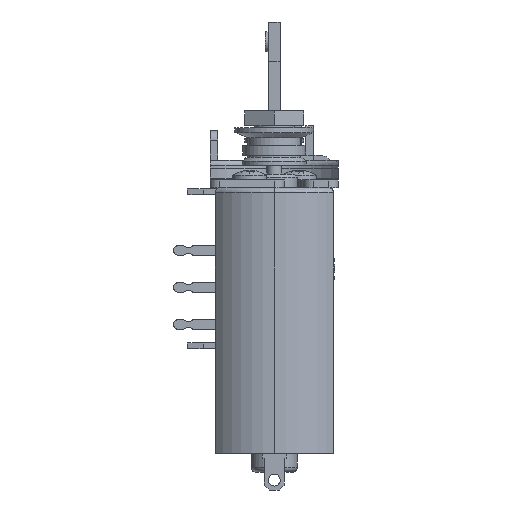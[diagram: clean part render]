
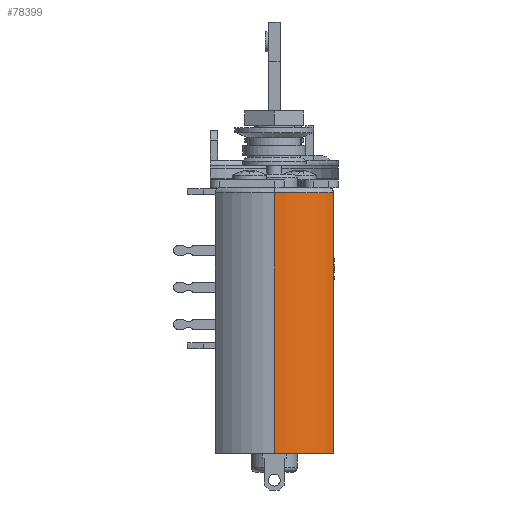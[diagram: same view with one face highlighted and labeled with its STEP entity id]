
A CAD part, left-side view. The second image highlights one B-rep face of the part: STEP entity #78399.
In plain terms, the highlighted cylindrical face has radius 7.75 mm (diameter 15.5 mm), a partial arc.
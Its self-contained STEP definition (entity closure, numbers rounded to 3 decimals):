
#72301 = TOROIDAL_SURFACE('',#72302,7.25,0.5);
#72302 = AXIS2_PLACEMENT_3D('',#72303,#72304,#72305);
#72303 = CARTESIAN_POINT('',(-72.5,0.,-8.3));
#72304 = DIRECTION('',(0.,0.,1.));
#72305 = DIRECTION('',(-1.,0.,0.));
#74842 = VERTEX_POINT('',#74843);
#74843 = CARTESIAN_POINT('',(-80.25,0.,-8.3));
#74863 = EDGE_CURVE('',#74842,#74864,#74866,.T.);
#74864 = VERTEX_POINT('',#74865);
#74865 = CARTESIAN_POINT('',(-77.405,-6.,-8.3));
#74866 = SURFACE_CURVE('',#74867,(#74872,#74879),.PCURVE_S1.);
#74867 = CIRCLE('',#74868,7.75);
#74868 = AXIS2_PLACEMENT_3D('',#74869,#74870,#74871);
#74869 = CARTESIAN_POINT('',(-72.5,0.,-8.3));
#74870 = DIRECTION('',(0.,0.,1.));
#74871 = DIRECTION('',(-1.,0.,0.));
#74872 = PCURVE('',#72301,#74873);
#74873 = DEFINITIONAL_REPRESENTATION('',(#74874),#74878);
#74874 = LINE('',#74875,#74876);
#74875 = CARTESIAN_POINT('',(0.,0.));
#74876 = VECTOR('',#74877,1.);
#74877 = DIRECTION('',(1.,0.));
#74878 = ( GEOMETRIC_REPRESENTATION_CONTEXT(2) 
PARAMETRIC_REPRESENTATION_CONTEXT() REPRESENTATION_CONTEXT('2D SPACE',''
  ) );
#74879 = PCURVE('',#74880,#74885);
#74880 = CYLINDRICAL_SURFACE('',#74881,7.75);
#74881 = AXIS2_PLACEMENT_3D('',#74882,#74883,#74884);
#74882 = CARTESIAN_POINT('',(-72.5,0.,-7.8));
#74883 = DIRECTION('',(0.,0.,1.));
#74884 = DIRECTION('',(-1.,0.,0.));
#74885 = DEFINITIONAL_REPRESENTATION('',(#74886),#74890);
#74886 = LINE('',#74887,#74888);
#74887 = CARTESIAN_POINT('',(0.,-0.5));
#74888 = VECTOR('',#74889,1.);
#74889 = DIRECTION('',(1.,0.));
#74890 = ( GEOMETRIC_REPRESENTATION_CONTEXT(2) 
PARAMETRIC_REPRESENTATION_CONTEXT() REPRESENTATION_CONTEXT('2D SPACE',''
  ) );
#75002 = PLANE('',#75003);
#75003 = AXIS2_PLACEMENT_3D('',#75004,#75005,#75006);
#75004 = CARTESIAN_POINT('',(-60.5,-6.,-40.8));
#75005 = DIRECTION('',(0.,-1.,0.));
#75006 = DIRECTION('',(0.,0.,1.));
#75299 = CYLINDRICAL_SURFACE('',#75300,7.75);
#75300 = AXIS2_PLACEMENT_3D('',#75301,#75302,#75303);
#75301 = CARTESIAN_POINT('',(-72.5,0.,-7.8));
#75302 = DIRECTION('',(0.,0.,1.));
#75303 = DIRECTION('',(-1.,0.,0.));
#78399 = ADVANCED_FACE('',(#78400),#74880,.T.);
#78400 = FACE_BOUND('',#78401,.T.);
#78401 = EDGE_LOOP('',(#78402,#78423,#78424,#78447));
#78402 = ORIENTED_EDGE('',*,*,#78403,.T.);
#78403 = EDGE_CURVE('',#78404,#74864,#78406,.T.);
#78404 = VERTEX_POINT('',#78405);
#78405 = CARTESIAN_POINT('',(-77.405,-6.,-34.7));
#78406 = SURFACE_CURVE('',#78407,(#78411,#78417),.PCURVE_S1.);
#78407 = LINE('',#78408,#78409);
#78408 = CARTESIAN_POINT('',(-77.405,-6.,-7.8));
#78409 = VECTOR('',#78410,1.);
#78410 = DIRECTION('',(0.,0.,1.));
#78411 = PCURVE('',#74880,#78412);
#78412 = DEFINITIONAL_REPRESENTATION('',(#78413),#78416);
#78413 = B_SPLINE_CURVE_WITH_KNOTS('',1,(#78414,#78415),.UNSPECIFIED.,
  .F.,.F.,(2,2),(-26.9,0.),.PIECEWISE_BEZIER_KNOTS.);
#78414 = CARTESIAN_POINT('',(0.885,-26.9));
#78415 = CARTESIAN_POINT('',(0.885,0.));
#78416 = ( GEOMETRIC_REPRESENTATION_CONTEXT(2) 
PARAMETRIC_REPRESENTATION_CONTEXT() REPRESENTATION_CONTEXT('2D SPACE',''
  ) );
#78417 = PCURVE('',#75002,#78418);
#78418 = DEFINITIONAL_REPRESENTATION('',(#78419),#78422);
#78419 = B_SPLINE_CURVE_WITH_KNOTS('',1,(#78420,#78421),.UNSPECIFIED.,
  .F.,.F.,(2,2),(-26.9,0.),.PIECEWISE_BEZIER_KNOTS.);
#78420 = CARTESIAN_POINT('',(6.1,16.905));
#78421 = CARTESIAN_POINT('',(33.,16.905));
#78422 = ( GEOMETRIC_REPRESENTATION_CONTEXT(2) 
PARAMETRIC_REPRESENTATION_CONTEXT() REPRESENTATION_CONTEXT('2D SPACE',''
  ) );
#78423 = ORIENTED_EDGE('',*,*,#74863,.F.);
#78424 = ORIENTED_EDGE('',*,*,#78425,.T.);
#78425 = EDGE_CURVE('',#74842,#78426,#78428,.T.);
#78426 = VERTEX_POINT('',#78427);
#78427 = CARTESIAN_POINT('',(-80.25,0.,-34.7));
#78428 = SURFACE_CURVE('',#78429,(#78433,#78440),.PCURVE_S1.);
#78429 = LINE('',#78430,#78431);
#78430 = CARTESIAN_POINT('',(-80.25,0.,-7.8));
#78431 = VECTOR('',#78432,1.);
#78432 = DIRECTION('',(0.,0.,-1.));
#78433 = PCURVE('',#74880,#78434);
#78434 = DEFINITIONAL_REPRESENTATION('',(#78435),#78439);
#78435 = LINE('',#78436,#78437);
#78436 = CARTESIAN_POINT('',(0.,0.));
#78437 = VECTOR('',#78438,1.);
#78438 = DIRECTION('',(0.,-1.));
#78439 = ( GEOMETRIC_REPRESENTATION_CONTEXT(2) 
PARAMETRIC_REPRESENTATION_CONTEXT() REPRESENTATION_CONTEXT('2D SPACE',''
  ) );
#78440 = PCURVE('',#75299,#78441);
#78441 = DEFINITIONAL_REPRESENTATION('',(#78442),#78446);
#78442 = LINE('',#78443,#78444);
#78443 = CARTESIAN_POINT('',(6.283,0.));
#78444 = VECTOR('',#78445,1.);
#78445 = DIRECTION('',(0.,-1.));
#78446 = ( GEOMETRIC_REPRESENTATION_CONTEXT(2) 
PARAMETRIC_REPRESENTATION_CONTEXT() REPRESENTATION_CONTEXT('2D SPACE',''
  ) );
#78447 = ORIENTED_EDGE('',*,*,#78448,.T.);
#78448 = EDGE_CURVE('',#78426,#78404,#78449,.T.);
#78449 = SURFACE_CURVE('',#78450,(#78455,#78462),.PCURVE_S1.);
#78450 = CIRCLE('',#78451,7.75);
#78451 = AXIS2_PLACEMENT_3D('',#78452,#78453,#78454);
#78452 = CARTESIAN_POINT('',(-72.5,0.,-34.7));
#78453 = DIRECTION('',(0.,0.,1.));
#78454 = DIRECTION('',(-1.,0.,0.));
#78455 = PCURVE('',#74880,#78456);
#78456 = DEFINITIONAL_REPRESENTATION('',(#78457),#78461);
#78457 = LINE('',#78458,#78459);
#78458 = CARTESIAN_POINT('',(0.,-26.9));
#78459 = VECTOR('',#78460,1.);
#78460 = DIRECTION('',(1.,0.));
#78461 = ( GEOMETRIC_REPRESENTATION_CONTEXT(2) 
PARAMETRIC_REPRESENTATION_CONTEXT() REPRESENTATION_CONTEXT('2D SPACE',''
  ) );
#78462 = PCURVE('',#78463,#78468);
#78463 = PLANE('',#78464);
#78464 = AXIS2_PLACEMENT_3D('',#78465,#78466,#78467);
#78465 = CARTESIAN_POINT('',(-72.5,0.,-34.7));
#78466 = DIRECTION('',(0.,0.,1.));
#78467 = DIRECTION('',(-1.,0.,0.));
#78468 = DEFINITIONAL_REPRESENTATION('',(#78469),#78473);
#78469 = CIRCLE('',#78470,7.75);
#78470 = AXIS2_PLACEMENT_2D('',#78471,#78472);
#78471 = CARTESIAN_POINT('',(0.,0.));
#78472 = DIRECTION('',(1.,0.));
#78473 = ( GEOMETRIC_REPRESENTATION_CONTEXT(2) 
PARAMETRIC_REPRESENTATION_CONTEXT() REPRESENTATION_CONTEXT('2D SPACE',''
  ) );
